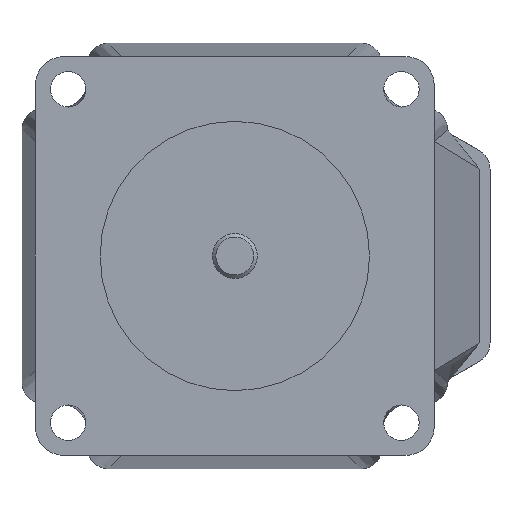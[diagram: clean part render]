
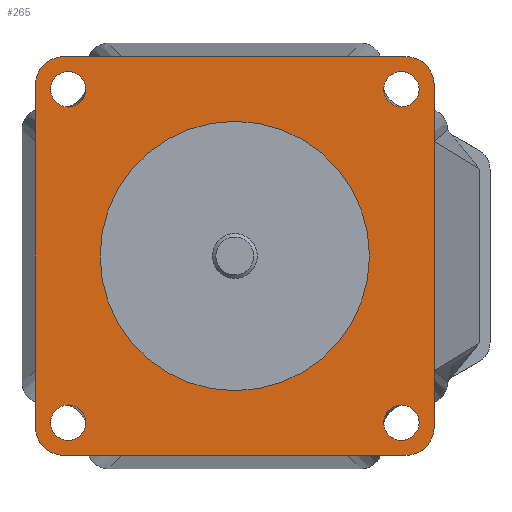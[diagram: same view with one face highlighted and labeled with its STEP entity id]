
A CAD part, left-side view. The second image highlights one B-rep face of the part: STEP entity #265.
In plain terms, the highlighted planar face has unit normal (-1, 0, 0).
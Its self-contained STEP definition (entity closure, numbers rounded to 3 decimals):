
#265 = ADVANCED_FACE( '', ( #707, #708, #709, #710, #711, #712 ), #713, .T. );
#707 = FACE_BOUND( '', #2804, .T. );
#708 = FACE_BOUND( '', #2805, .T. );
#709 = FACE_BOUND( '', #2806, .T. );
#710 = FACE_BOUND( '', #2807, .T. );
#711 = FACE_OUTER_BOUND( '', #2808, .T. );
#712 = FACE_BOUND( '', #2809, .T. );
#713 = PLANE( '', #2810 );
#2804 = EDGE_LOOP( '', ( #4166 ) );
#2805 = EDGE_LOOP( '', ( #4167 ) );
#2806 = EDGE_LOOP( '', ( #4168 ) );
#2807 = EDGE_LOOP( '', ( #4169 ) );
#2808 = EDGE_LOOP( '', ( #4170, #4171, #4172, #4173, #4174, #4175, #4176, #4177 ) );
#2809 = EDGE_LOOP( '', ( #4178 ) );
#2810 = AXIS2_PLACEMENT_3D( '', #4179, #4180, #4181 );
#4166 = ORIENTED_EDGE( '', *, *, #4436, .F. );
#4167 = ORIENTED_EDGE( '', *, *, #4438, .F. );
#4168 = ORIENTED_EDGE( '', *, *, #4440, .F. );
#4169 = ORIENTED_EDGE( '', *, *, #4442, .F. );
#4170 = ORIENTED_EDGE( '', *, *, #4227, .T. );
#4171 = ORIENTED_EDGE( '', *, *, #4463, .T. );
#4172 = ORIENTED_EDGE( '', *, *, #4575, .T. );
#4173 = ORIENTED_EDGE( '', *, *, #4459, .T. );
#4174 = ORIENTED_EDGE( '', *, *, #4561, .T. );
#4175 = ORIENTED_EDGE( '', *, *, #4455, .T. );
#4176 = ORIENTED_EDGE( '', *, *, #4532, .T. );
#4177 = ORIENTED_EDGE( '', *, *, #4451, .T. );
#4178 = ORIENTED_EDGE( '', *, *, #4449, .F. );
#4179 = CARTESIAN_POINT( '', ( -98., 24.2, 24.2 ) );
#4180 = DIRECTION( '', ( -1., 0., 0. ) );
#4181 = DIRECTION( '', ( 0., 0., 1. ) );
#4227 = EDGE_CURVE( '', #4683, #4681, #4684, .T. );
#4436 = EDGE_CURVE( '', #5050, #5050, #5051, .T. );
#4438 = EDGE_CURVE( '', #5054, #5054, #5055, .T. );
#4440 = EDGE_CURVE( '', #5058, #5058, #5059, .T. );
#4442 = EDGE_CURVE( '', #5062, #5062, #5063, .T. );
#4449 = EDGE_CURVE( '', #5073, #5073, #5074, .T. );
#4451 = EDGE_CURVE( '', #5077, #4683, #5078, .T. );
#4455 = EDGE_CURVE( '', #5085, #5083, #5086, .T. );
#4459 = EDGE_CURVE( '', #5093, #5091, #5094, .T. );
#4463 = EDGE_CURVE( '', #4681, #5098, #5100, .T. );
#4532 = EDGE_CURVE( '', #5083, #5077, #5216, .T. );
#4561 = EDGE_CURVE( '', #5091, #5085, #5261, .T. );
#4575 = EDGE_CURVE( '', #5098, #5093, #5283, .T. );
#4681 = VERTEX_POINT( '', #5443 );
#4683 = VERTEX_POINT( '', #5446 );
#4684 = LINE( '', #5447, #5448 );
#5050 = VERTEX_POINT( '', #6005 );
#5051 = CIRCLE( '', #6006, 2.5 );
#5054 = VERTEX_POINT( '', #6009 );
#5055 = CIRCLE( '', #6010, 2.5 );
#5058 = VERTEX_POINT( '', #6013 );
#5059 = CIRCLE( '', #6014, 2.5 );
#5062 = VERTEX_POINT( '', #6017 );
#5063 = CIRCLE( '', #6018, 2.5 );
#5073 = VERTEX_POINT( '', #6036 );
#5074 = CIRCLE( '', #6037, 19.05 );
#5077 = VERTEX_POINT( '', #6040 );
#5078 = CIRCLE( '', #6041, 4. );
#5083 = VERTEX_POINT( '', #6047 );
#5085 = VERTEX_POINT( '', #6050 );
#5086 = CIRCLE( '', #6051, 4. );
#5091 = VERTEX_POINT( '', #6057 );
#5093 = VERTEX_POINT( '', #6060 );
#5094 = CIRCLE( '', #6061, 4. );
#5098 = VERTEX_POINT( '', #6066 );
#5100 = CIRCLE( '', #6069, 4. );
#5216 = LINE( '', #6321, #6322 );
#5261 = LINE( '', #6439, #6440 );
#5283 = LINE( '', #6503, #6504 );
#5443 = CARTESIAN_POINT( '', ( -98., 24.2, 28.2 ) );
#5446 = CARTESIAN_POINT( '', ( -98., -24.2, 28.2 ) );
#5447 = CARTESIAN_POINT( '', ( -98., -20.641, 28.2 ) );
#5448 = VECTOR( '', #6617, 1000. );
#6005 = CARTESIAN_POINT( '', ( -98., 23.57, 21.07 ) );
#6006 = AXIS2_PLACEMENT_3D( '', #6941, #6942, #6943 );
#6009 = CARTESIAN_POINT( '', ( -98., 23.57, -26.07 ) );
#6010 = AXIS2_PLACEMENT_3D( '', #6947, #6948, #6949 );
#6013 = CARTESIAN_POINT( '', ( -98., -23.57, -26.07 ) );
#6014 = AXIS2_PLACEMENT_3D( '', #6953, #6954, #6955 );
#6017 = CARTESIAN_POINT( '', ( -98., -23.57, 21.07 ) );
#6018 = AXIS2_PLACEMENT_3D( '', #6959, #6960, #6961 );
#6036 = CARTESIAN_POINT( '', ( -98., -19.05, 0. ) );
#6037 = AXIS2_PLACEMENT_3D( '', #6967, #6968, #6969 );
#6040 = CARTESIAN_POINT( '', ( -98., -28.2, 24.2 ) );
#6041 = AXIS2_PLACEMENT_3D( '', #6973, #6974, #6975 );
#6047 = CARTESIAN_POINT( '', ( -98., -28.2, -24.2 ) );
#6050 = CARTESIAN_POINT( '', ( -98., -24.2, -28.2 ) );
#6051 = AXIS2_PLACEMENT_3D( '', #6981, #6982, #6983 );
#6057 = CARTESIAN_POINT( '', ( -98., 24.2, -28.2 ) );
#6060 = CARTESIAN_POINT( '', ( -98., 28.2, -24.2 ) );
#6061 = AXIS2_PLACEMENT_3D( '', #6989, #6990, #6991 );
#6066 = CARTESIAN_POINT( '', ( -98., 28.2, 24.2 ) );
#6069 = AXIS2_PLACEMENT_3D( '', #6997, #6998, #6999 );
#6321 = CARTESIAN_POINT( '', ( -98., -28.2, -20.641 ) );
#6322 = VECTOR( '', #7059, 1000. );
#6439 = CARTESIAN_POINT( '', ( -98., 24.2, -28.2 ) );
#6440 = VECTOR( '', #7070, 1000. );
#6503 = CARTESIAN_POINT( '', ( -98., 28.2, 24.2 ) );
#6504 = VECTOR( '', #7073, 1000. );
#6617 = DIRECTION( '', ( 0., 1., 0. ) );
#6941 = CARTESIAN_POINT( '', ( -98., 23.57, 23.57 ) );
#6942 = DIRECTION( '', ( -1., 0., 0. ) );
#6943 = DIRECTION( '', ( 0., 0., -1. ) );
#6947 = CARTESIAN_POINT( '', ( -98., 23.57, -23.57 ) );
#6948 = DIRECTION( '', ( -1., 0., 0. ) );
#6949 = DIRECTION( '', ( 0., 0., -1. ) );
#6953 = CARTESIAN_POINT( '', ( -98., -23.57, -23.57 ) );
#6954 = DIRECTION( '', ( -1., 0., 0. ) );
#6955 = DIRECTION( '', ( 0., 0., -1. ) );
#6959 = CARTESIAN_POINT( '', ( -98., -23.57, 23.57 ) );
#6960 = DIRECTION( '', ( -1., 0., 0. ) );
#6961 = DIRECTION( '', ( 0., 0., -1. ) );
#6967 = CARTESIAN_POINT( '', ( -98., 0., 0. ) );
#6968 = DIRECTION( '', ( -1., 0., 0. ) );
#6969 = DIRECTION( '', ( 0., -1., 0. ) );
#6973 = CARTESIAN_POINT( '', ( -98., -24.2, 24.2 ) );
#6974 = DIRECTION( '', ( -1., 0., 0. ) );
#6975 = DIRECTION( '', ( 0., -1., 0. ) );
#6981 = CARTESIAN_POINT( '', ( -98., -24.2, -24.2 ) );
#6982 = DIRECTION( '', ( -1., 0., 0. ) );
#6983 = DIRECTION( '', ( 0., 1., 0. ) );
#6989 = CARTESIAN_POINT( '', ( -98., 24.2, -24.2 ) );
#6990 = DIRECTION( '', ( -1., 0., 0. ) );
#6991 = DIRECTION( '', ( 0., -1., 0. ) );
#6997 = CARTESIAN_POINT( '', ( -98., 24.2, 24.2 ) );
#6998 = DIRECTION( '', ( -1., 0., 0. ) );
#6999 = DIRECTION( '', ( 0., -1., 0. ) );
#7059 = DIRECTION( '', ( 0., 0., 1. ) );
#7070 = DIRECTION( '', ( 0., -1., 0. ) );
#7073 = DIRECTION( '', ( 0., 0., -1. ) );
